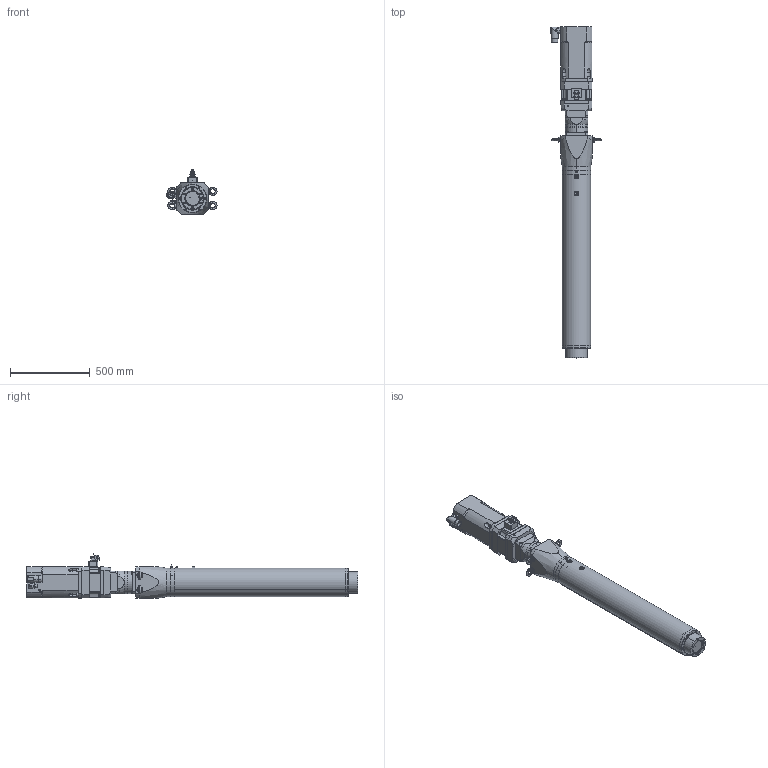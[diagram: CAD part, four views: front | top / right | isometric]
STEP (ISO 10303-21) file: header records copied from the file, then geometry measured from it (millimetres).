
FILE_DESCRIPTION (( 'STEP AP203' ), '1' );
FILE_NAME ('LN5I1000-075-020SG.STEP', '2019-01-31T12:00:20', ( '' ), ( '' ), 'SwSTEP 2.0', 'SolidWorks 2016', '' );
FILE_SCHEMA (( 'CONFIG_CONTROL_DESIGN' ));
Length unit declared in the file: millimetre
Products named in the file (1): LN5I1000-075-020SG
Bounding box: 313 x 2075.5 x 275.89 mm (x, y, z)
Volume: 44730414.8 mm3; surface area: 3249285.9 mm2
Topology: 37 solids, 37 shells, 1504 faces, 3576 edges, 2141 vertices
Faces by surface type: cylinder 566, plane 529, cone 231, torus 102, bspline 74, sphere 2
Entity records: 48628 total; most frequent: CARTESIAN_POINT 14087, DIRECTION 7560, ORIENTED_EDGE 6828, EDGE_CURVE 3414, AXIS2_PLACEMENT_3D 2966, VERTEX_POINT 2141, EDGE_LOOP 1755, VECTOR 1628
